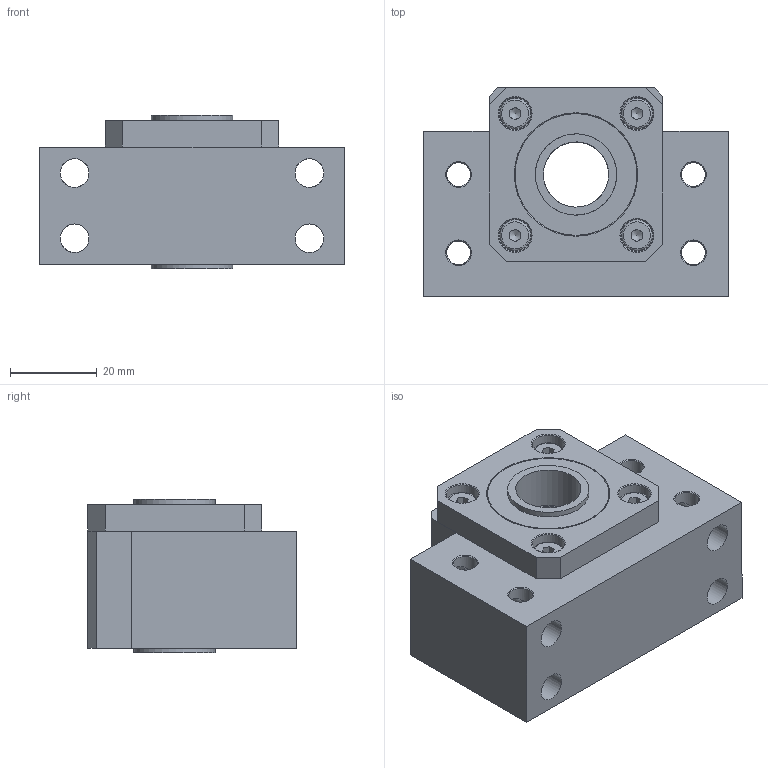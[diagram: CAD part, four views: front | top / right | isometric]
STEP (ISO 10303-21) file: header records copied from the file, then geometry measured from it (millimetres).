
FILE_DESCRIPTION(/* description */ (''),/* implementation_level */ '2;1');
FILE_NAME(/* name */ 'C:\ownCloud\Kamp und Kötter\Artikel\Lagerset Stehlager (BK-BF)\02_STEP-Dateien\Steh-Festlager KUS20_20017.stp',/* time_stamp */ '2017-12-05T17:45:26+01:00',/* author */ ('daviddk'),/* organization */ (''),/* preprocessor_version */ 'ST-DEVELOPER v16.5',/* originating_system */ 'Autodesk Inventor 2017',/* authorisation */ '');
FILE_SCHEMA (('AUTOMOTIVE_DESIGN { 1 0 10303 214 3 1 1 }'));
Length unit declared in the file: millimetre
Products named in the file (22): Zusammenbau Festlager; Festlager; Abdeckkappe; DIN 7984 - M4 x 6; Distanzring; BK15-Dinstanzring-hinten; BK15-Dinstanzring-vorne; Wellendichtring; inafag_b7002-c-t-p4s_5mktdp0cwb119am4yeiejssnx; inafag_b7002-c-t-p4s_5mktdp0cwb119am4yeiejssnx_01; inafag_b7002-c-t-p4s_5mktdp0cwb119am4yeiejssnx_02; inafag_b7002-c-t-p4s_5mktdp0cwb119am4yeiejssnx_03; inafag_b7002-c-t-p4s_5mktdp0cwb119am4yeiejssnx_04; inafag_b7002-c-t-p4s_5mktdp0cwb119am4yeiejssnx_05; inafag_b7002-c-t-p4s_5mktdp0cwb119am4yeiejssnx_06; inafag_b7002-c-t-p4s_5mktdp0cwb119am4yeiejssnx_07; inafag_b7002-c-t-p4s_5mktdp0cwb119am4yeiejssnx_08; inafag_b7002-c-t-p4s_5mktdp0cwb119am4yeiejssnx_09; inafag_b7002-c-t-p4s_5mktdp0cwb119am4yeiejssnx_10; inafag_b7002-c-t-p4s_5mktdp0cwb119am4yeiejssnx_11; inafag_b7002-c-t-p4s_5mktdp0cwb119am4yeiejssnx_12; inafag_b7002-c-t-p4s_5mktdp0cwb119am4yeiejssnx_13
Assembly tree (26 placements, depth 3):
  Zusammenbau Festlager
    Festlager
    Abdeckkappe
    DIN 7984 - M4 x 6  x4
    Distanzring
    BK15-Dinstanzring-hinten
    BK15-Dinstanzring-vorne
    Wellendichtring  x2
    inafag_b7002-c-t-p4s_5mktdp0cwb119am4yeiejssnx  x2
      inafag_b7002-c-t-p4s_5mktdp0cwb119am4yeiejssnx_01
      inafag_b7002-c-t-p4s_5mktdp0cwb119am4yeiejssnx_02
      inafag_b7002-c-t-p4s_5mktdp0cwb119am4yeiejssnx_03
      inafag_b7002-c-t-p4s_5mktdp0cwb119am4yeiejssnx_04
      inafag_b7002-c-t-p4s_5mktdp0cwb119am4yeiejssnx_05
      inafag_b7002-c-t-p4s_5mktdp0cwb119am4yeiejssnx_06
      inafag_b7002-c-t-p4s_5mktdp0cwb119am4yeiejssnx_07
      inafag_b7002-c-t-p4s_5mktdp0cwb119am4yeiejssnx_08
      inafag_b7002-c-t-p4s_5mktdp0cwb119am4yeiejssnx_09
      inafag_b7002-c-t-p4s_5mktdp0cwb119am4yeiejssnx_10
      inafag_b7002-c-t-p4s_5mktdp0cwb119am4yeiejssnx_11
      inafag_b7002-c-t-p4s_5mktdp0cwb119am4yeiejssnx_12
      inafag_b7002-c-t-p4s_5mktdp0cwb119am4yeiejssnx_13
Bounding box: 70 x 48 x 35.3 mm (x, y, z)
Volume: 67431.8 mm3; surface area: 37482.7 mm2
Topology: 37 solids, 37 shells, 234 faces, 525 edges, 332 vertices
Faces by surface type: plane 87, cylinder 68, cone 37, sphere 22, torus 20
Full cylindrical faces by diameter (mm): 3.242 x4, 4 x4, 4.8 x4, 5.5 x12, 6.6 x4, 7 x4, 7.4 x4, 11 x4, 15 x4, 18.7 x4, 21.1 x4, 22 x1, 26.41 x2, 28 x4, 31 x1, 32 x3, 35 x1
Entity records: 5259 total; most frequent: CARTESIAN_POINT 1327, DIRECTION 768, ORIENTED_EDGE 474, AXIS2_PLACEMENT_3D 347, EDGE_LOOP 311, EDGE_CURVE 237, VERTEX_POINT 216, FACE_OUTER_BOUND 158
